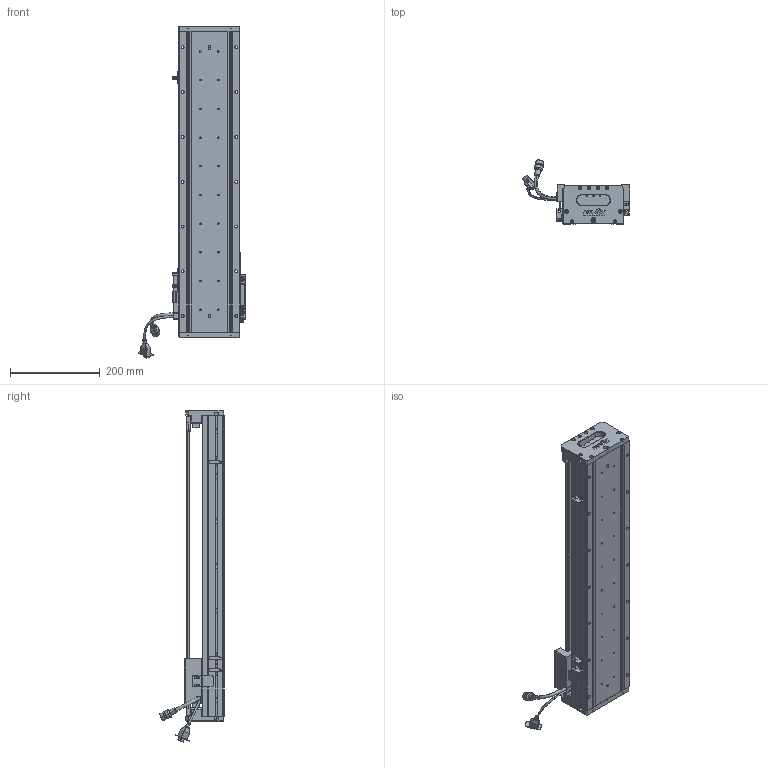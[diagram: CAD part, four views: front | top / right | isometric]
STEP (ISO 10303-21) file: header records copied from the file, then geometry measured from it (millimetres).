
FILE_DESCRIPTION (( 'STEP AP203' ), '1' );
FILE_NAME ('Z1-RY140D-1-L500-B-K.SLDASM_0500.step', '2021-05-17T07:30:39', ( '盈信电脑' ), ( '东莞市道滘镇水果街19号' ), 'SwSTEP 2.0', 'SolidWorks 2016', '' );
FILE_SCHEMA (( 'CONFIG_CONTROL_DESIGN' ));
Length unit declared in the file: millimetre
Products named in the file (36): SCALE-Part-1; SCALE-Part-2; SCREW-M1.7; SCREW-M1.7-1; PBU_SHEET; LABEL; COVER; 榋妏寠巭燃_暯_M2_2; HARNESS-Part-1; SCREW-M1.6-2; SCREW-M1.6-3; Z1-RY140-L500直线电机模组底座_0500; 覜茼ん672; HARNESS-Part-2; COVER-Part-1; SCREW-M1.6-1; Z-RY140感应器672光电感应片; 140蚥薯蝶輸; Z1-RY140D-1-L500-B-K.SLDASM_0500; 080黍杅芛假蚾釱21遴; SEAL-Part-1; SEAL; Z-140詩湍傷裔啣; 140雄赽晤鎢ん堤盄; Z-RY140詩湍奻揤裔; SHIELDPLATE; LABEL-Part-1; Z1-RY140圉猾敕臏賑輸(21遴); SCALE; PSLH080_PSLF2; HOLDER0; 140-Z-臏賑輸盄裔(21遴); SCREW-M1.6; Z1-RY140-L500詩湍100mm遵_0500; Z-RY140詩湍狟揤裔; HARNESS
Assembly tree (41 placements, depth 4):
  Z1-RY140D-1-L500-B-K.SLDASM_0500
    Z1-RY140-L500直线电机模组底座_0500
    Z-RY140感应器672光电感应片
    Z1-RY140圉猾敕臏賑輸(21遴)
    覜茼ん672  x3
    Z1-RY140-L500詩湍100mm遵_0500
    PSLH080_PSLF2
      SCALE
        SCALE-Part-1
        SCALE-Part-2
      HARNESS
        HARNESS-Part-1
        HARNESS-Part-2
      LABEL
        LABEL-Part-1
      COVER
        COVER-Part-1
      SEAL
        SEAL-Part-1
      榋妏寠巭燃_暯_M2_2
      SHIELDPLATE
      SCREW-M1.7
      SCREW-M1.7-1
      PBU_SHEET
      SCREW-M1.6
      SCREW-M1.6-1
      SCREW-M1.6-2
      SCREW-M1.6-3
      HOLDER0
    080黍杅芛假蚾釱21遴
    140-Z-臏賑輸盄裔(21遴)
    Z-140詩湍傷裔啣  x2
    Z-RY140詩湍狟揤裔  x2
    Z-RY140詩湍奻揤裔  x2
    140蚥薯蝶輸  x2
    140雄赽晤鎢ん堤盄
Bounding box: 239.84 x 143.88 x 740.88 mm (x, y, z)
Volume: 2696243.8 mm3; surface area: 727648.6 mm2
Topology: 36 solids, 36 shells, 2648 faces, 6930 edges, 4395 vertices
Faces by surface type: cylinder 1188, plane 1092, cone 246, torus 69, bspline 53
Entity records: 75766 total; most frequent: CARTESIAN_POINT 18665, DIRECTION 11070, ORIENTED_EDGE 11060, EDGE_CURVE 5530, AXIS2_PLACEMENT_3D 4032, VERTEX_POINT 3563, LINE 3006, VECTOR 3006
